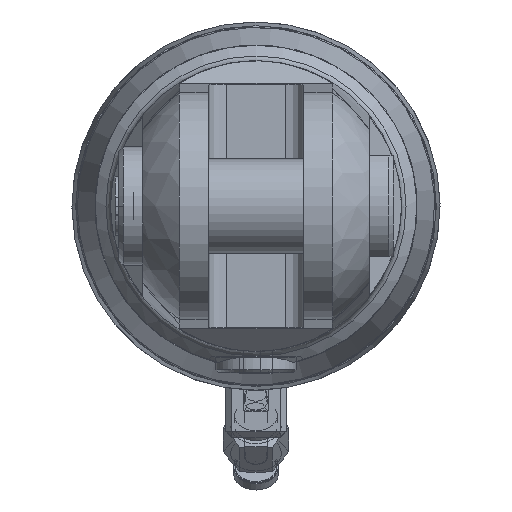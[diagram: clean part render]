
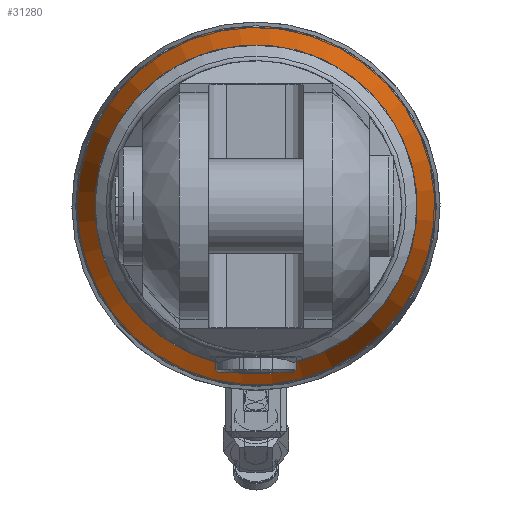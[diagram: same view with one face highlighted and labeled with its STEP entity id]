
A CAD part, left-side view. The second image highlights one B-rep face of the part: STEP entity #31280.
In plain terms, the highlighted conical face has half-angle 17.561 degrees and reference radius 57.244 mm.
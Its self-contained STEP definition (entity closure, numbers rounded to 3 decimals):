
#610=CONICAL_SURFACE('',#33070,57.244,0.306);
#4805=FACE_OUTER_BOUND('',#6506,.T.);
#6506=EDGE_LOOP('',(#22355,#22356,#22357,#22358,#22359,#22360));
#8346=CIRCLE('',#33067,54.151);
#8347=CIRCLE('',#33068,54.151);
#8349=CIRCLE('',#33071,60.337);
#8350=CIRCLE('',#33072,60.337);
#8776=LINE('',#40808,#11678);
#11678=VECTOR('',#34808,57.244);
#14612=VERTEX_POINT('',#40800);
#14613=VERTEX_POINT('',#40802);
#14614=VERTEX_POINT('',#40807);
#14615=VERTEX_POINT('',#40809);
#17681=EDGE_CURVE('',#14612,#14613,#8346,.T.);
#17682=EDGE_CURVE('',#14613,#14612,#8347,.T.);
#17684=EDGE_CURVE('',#14613,#14614,#8776,.T.);
#17685=EDGE_CURVE('',#14615,#14614,#8349,.T.);
#17686=EDGE_CURVE('',#14614,#14615,#8350,.T.);
#22355=ORIENTED_EDGE('',*,*,#17681,.F.);
#22356=ORIENTED_EDGE('',*,*,#17682,.F.);
#22357=ORIENTED_EDGE('',*,*,#17684,.T.);
#22358=ORIENTED_EDGE('',*,*,#17685,.F.);
#22359=ORIENTED_EDGE('',*,*,#17686,.F.);
#22360=ORIENTED_EDGE('',*,*,#17684,.F.);
#31280=ADVANCED_FACE('',(#4805),#610,.T.);
#33067=AXIS2_PLACEMENT_3D('',#40803,#34800,#34801);
#33068=AXIS2_PLACEMENT_3D('',#40804,#34802,#34803);
#33070=AXIS2_PLACEMENT_3D('',#40806,#34806,#34807);
#33071=AXIS2_PLACEMENT_3D('',#40810,#34809,#34810);
#33072=AXIS2_PLACEMENT_3D('',#40811,#34811,#34812);
#34800=DIRECTION('center_axis',(-1.,0.,0.));
#34801=DIRECTION('ref_axis',(0.,0.091,0.996));
#34802=DIRECTION('center_axis',(-1.,0.,0.));
#34803=DIRECTION('ref_axis',(0.,0.091,0.996));
#34806=DIRECTION('center_axis',(1.,0.,0.));
#34807=DIRECTION('ref_axis',(0.,-0.091,-0.996));
#34808=DIRECTION('',(0.953,0.028,0.3));
#34809=DIRECTION('center_axis',(1.,0.,0.));
#34810=DIRECTION('ref_axis',(0.,0.091,0.996));
#34811=DIRECTION('center_axis',(1.,0.,0.));
#34812=DIRECTION('ref_axis',(0.,0.091,0.996));
#40800=CARTESIAN_POINT('',(-20.023,-4.95,-53.924));
#40802=CARTESIAN_POINT('',(-20.023,4.95,53.924));
#40803=CARTESIAN_POINT('Origin',(-20.023,0.,
0.));
#40804=CARTESIAN_POINT('Origin',(-20.023,0.,
0.));
#40806=CARTESIAN_POINT('Origin',(-10.25,0.,0.));
#40807=CARTESIAN_POINT('',(-0.477,5.515,60.084));
#40808=CARTESIAN_POINT('',(-10.25,5.233,57.004));
#40809=CARTESIAN_POINT('',(-0.477,-5.515,-60.084));
#40810=CARTESIAN_POINT('Origin',(-0.477,0.,
0.));
#40811=CARTESIAN_POINT('Origin',(-0.477,0.,
0.));
